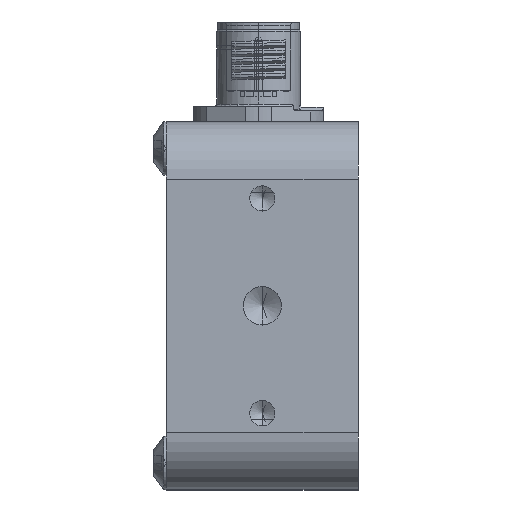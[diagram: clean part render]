
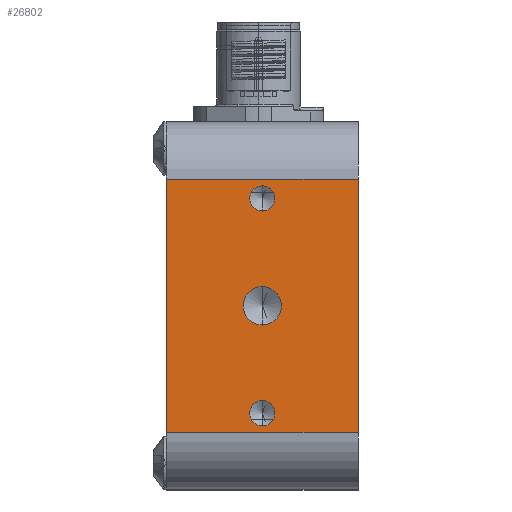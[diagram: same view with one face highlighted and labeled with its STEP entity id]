
A CAD part, left-side view. The second image highlights one B-rep face of the part: STEP entity #26802.
In plain terms, the highlighted planar face has unit normal (-1, 0, 0).
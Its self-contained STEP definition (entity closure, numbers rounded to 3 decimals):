
#142 = ORIENTED_EDGE ( 'NONE', *, *, #26888, .F. ) ;
#261 = EDGE_CURVE ( 'NONE', #20954, #11448, #8810, .T. ) ;
#545 = DIRECTION ( 'NONE',  ( -1., 0., 0. ) ) ;
#769 = VERTEX_POINT ( 'NONE', #21844 ) ;
#1178 = VERTEX_POINT ( 'NONE', #10819 ) ;
#1337 = VERTEX_POINT ( 'NONE', #2942 ) ;
#1394 = CARTESIAN_POINT ( 'NONE',  ( 0., 12.5, -10. ) ) ;
#2132 = AXIS2_PLACEMENT_3D ( 'NONE', #5171, #26485, #20197 ) ;
#2583 = CIRCLE ( 'NONE', #24613, 1.65 ) ;
#2833 = CIRCLE ( 'NONE', #11872, 1.65 ) ;
#2942 = CARTESIAN_POINT ( 'NONE',  ( 0., 12.5, -8.35 ) ) ;
#3451 = DIRECTION ( 'NONE',  ( -1., 0., 0. ) ) ;
#3453 = CARTESIAN_POINT ( 'NONE',  ( 0., 0., -40.5 ) ) ;
#4722 = DIRECTION ( 'NONE',  ( 0., 1., 0. ) ) ;
#4735 = EDGE_LOOP ( 'NONE', ( #9400, #18314, #21265, #27485 ) ) ;
#5171 = CARTESIAN_POINT ( 'NONE',  ( 0., 12.5, -24. ) ) ;
#5274 = VECTOR ( 'NONE', #15230, 1000. ) ;
#6376 = EDGE_CURVE ( 'NONE', #1337, #769, #14269, .T. ) ;
#6404 = ORIENTED_EDGE ( 'NONE', *, *, #11313, .F. ) ;
#6896 = DIRECTION ( 'NONE',  ( -1., 0., 0. ) ) ;
#6998 = CARTESIAN_POINT ( 'NONE',  ( 0., 12.5, -21.5 ) ) ;
#7206 = PLANE ( 'NONE',  #19961 ) ;
#7376 = DIRECTION ( 'NONE',  ( 0., 0., 1. ) ) ;
#7389 = EDGE_LOOP ( 'NONE', ( #27231, #16578 ) ) ;
#7430 = VERTEX_POINT ( 'NONE', #13840 ) ;
#7865 = EDGE_LOOP ( 'NONE', ( #22677, #6404 ) ) ;
#8373 = CIRCLE ( 'NONE', #10097, 1.65 ) ;
#8810 = LINE ( 'NONE', #19612, #9494 ) ;
#9161 = CARTESIAN_POINT ( 'NONE',  ( 0., 12.5, -38. ) ) ;
#9271 = EDGE_LOOP ( 'NONE', ( #14574, #142 ) ) ;
#9400 = ORIENTED_EDGE ( 'NONE', *, *, #261, .F. ) ;
#9494 = VECTOR ( 'NONE', #11145, 1000. ) ;
#9847 = EDGE_CURVE ( 'NONE', #25814, #11448, #25849, .T. ) ;
#10097 = AXIS2_PLACEMENT_3D ( 'NONE', #26583, #22189, #17784 ) ;
#10516 = FACE_BOUND ( 'NONE', #7865, .T. ) ;
#10819 = CARTESIAN_POINT ( 'NONE',  ( 0., 12.5, -26.5 ) ) ;
#11145 = DIRECTION ( 'NONE',  ( 0., 0., 1. ) ) ;
#11313 = EDGE_CURVE ( 'NONE', #1178, #24653, #16398, .T. ) ;
#11448 = VERTEX_POINT ( 'NONE', #14184 ) ;
#11502 = DIRECTION ( 'NONE',  ( 0., 0., 1. ) ) ;
#11871 = AXIS2_PLACEMENT_3D ( 'NONE', #17512, #545, #13131 ) ;
#11872 = AXIS2_PLACEMENT_3D ( 'NONE', #1394, #3451, #18472 ) ;
#13131 = DIRECTION ( 'NONE',  ( 0., 0., 1. ) ) ;
#13840 = CARTESIAN_POINT ( 'NONE',  ( 0., 12.5, -36.35 ) ) ;
#14184 = CARTESIAN_POINT ( 'NONE',  ( 0., 25., -7.5 ) ) ;
#14257 = VERTEX_POINT ( 'NONE', #14769 ) ;
#14269 = CIRCLE ( 'NONE', #15496, 1.65 ) ;
#14574 = ORIENTED_EDGE ( 'NONE', *, *, #6376, .F. ) ;
#14769 = CARTESIAN_POINT ( 'NONE',  ( 0., 12.5, -39.65 ) ) ;
#15230 = DIRECTION ( 'NONE',  ( 0., -1., 0. ) ) ;
#15496 = AXIS2_PLACEMENT_3D ( 'NONE', #26500, #6896, #21833 ) ;
#15839 = CARTESIAN_POINT ( 'NONE',  ( 0., 0., -48. ) ) ;
#16398 = CIRCLE ( 'NONE', #2132, 2.5 ) ;
#16578 = ORIENTED_EDGE ( 'NONE', *, *, #24552, .F. ) ;
#16819 = CARTESIAN_POINT ( 'NONE',  ( 0., 0., -48. ) ) ;
#16891 = FACE_BOUND ( 'NONE', #7389, .T. ) ;
#17512 = CARTESIAN_POINT ( 'NONE',  ( 0., 12.5, -24. ) ) ;
#17740 = EDGE_CURVE ( 'NONE', #24653, #1178, #22926, .T. ) ;
#17784 = DIRECTION ( 'NONE',  ( 0., 0., 1. ) ) ;
#18314 = ORIENTED_EDGE ( 'NONE', *, *, #23672, .T. ) ;
#18439 = LINE ( 'NONE', #16819, #26829 ) ;
#18472 = DIRECTION ( 'NONE',  ( 0., 0., 1. ) ) ;
#18986 = CARTESIAN_POINT ( 'NONE',  ( 0., 25., -40.5 ) ) ;
#19612 = CARTESIAN_POINT ( 'NONE',  ( 0., 25., -48. ) ) ;
#19818 = CARTESIAN_POINT ( 'NONE',  ( 0., 0., -7.5 ) ) ;
#19961 = AXIS2_PLACEMENT_3D ( 'NONE', #15839, #22326, #7376 ) ;
#20197 = DIRECTION ( 'NONE',  ( 0., 0., 1. ) ) ;
#20420 = CARTESIAN_POINT ( 'NONE',  ( 0., 0., -7.5 ) ) ;
#20765 = EDGE_CURVE ( 'NONE', #7430, #14257, #8373, .T. ) ;
#20954 = VERTEX_POINT ( 'NONE', #18986 ) ;
#20981 = EDGE_CURVE ( 'NONE', #22814, #25814, #18439, .T. ) ;
#21265 = ORIENTED_EDGE ( 'NONE', *, *, #20981, .T. ) ;
#21833 = DIRECTION ( 'NONE',  ( 0., 0., 1. ) ) ;
#21844 = CARTESIAN_POINT ( 'NONE',  ( 0., 12.5, -11.65 ) ) ;
#21939 = FACE_BOUND ( 'NONE', #9271, .T. ) ;
#22189 = DIRECTION ( 'NONE',  ( -1., 0., 0. ) ) ;
#22326 = DIRECTION ( 'NONE',  ( -1., 0., 0. ) ) ;
#22677 = ORIENTED_EDGE ( 'NONE', *, *, #17740, .F. ) ;
#22814 = VERTEX_POINT ( 'NONE', #3453 ) ;
#22849 = VECTOR ( 'NONE', #4722, 1000. ) ;
#22926 = CIRCLE ( 'NONE', #11871, 2.5 ) ;
#23672 = EDGE_CURVE ( 'NONE', #20954, #22814, #25422, .T. ) ;
#24177 = DIRECTION ( 'NONE',  ( -1., 0., 0. ) ) ;
#24552 = EDGE_CURVE ( 'NONE', #14257, #7430, #2583, .T. ) ;
#24613 = AXIS2_PLACEMENT_3D ( 'NONE', #9161, #24177, #11502 ) ;
#24653 = VERTEX_POINT ( 'NONE', #6998 ) ;
#25422 = LINE ( 'NONE', #25469, #5274 ) ;
#25469 = CARTESIAN_POINT ( 'NONE',  ( 0., 0., -40.5 ) ) ;
#25814 = VERTEX_POINT ( 'NONE', #20420 ) ;
#25849 = LINE ( 'NONE', #19818, #22849 ) ;
#26485 = DIRECTION ( 'NONE',  ( -1., 0., 0. ) ) ;
#26500 = CARTESIAN_POINT ( 'NONE',  ( 0., 12.5, -10. ) ) ;
#26583 = CARTESIAN_POINT ( 'NONE',  ( 0., 12.5, -38. ) ) ;
#26802 = ADVANCED_FACE ( 'NONE', ( #16891, #21939, #10516, #27635 ), #7206, .T. ) ;
#26829 = VECTOR ( 'NONE', #27424, 1000. ) ;
#26888 = EDGE_CURVE ( 'NONE', #769, #1337, #2833, .T. ) ;
#27231 = ORIENTED_EDGE ( 'NONE', *, *, #20765, .F. ) ;
#27424 = DIRECTION ( 'NONE',  ( 0., 0., 1. ) ) ;
#27485 = ORIENTED_EDGE ( 'NONE', *, *, #9847, .T. ) ;
#27635 = FACE_OUTER_BOUND ( 'NONE', #4735, .T. ) ;
